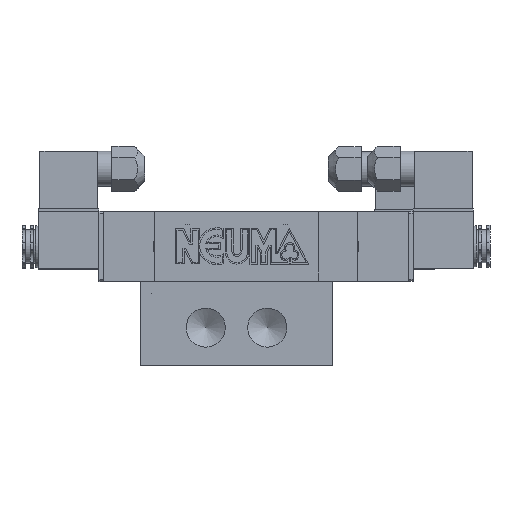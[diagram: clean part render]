
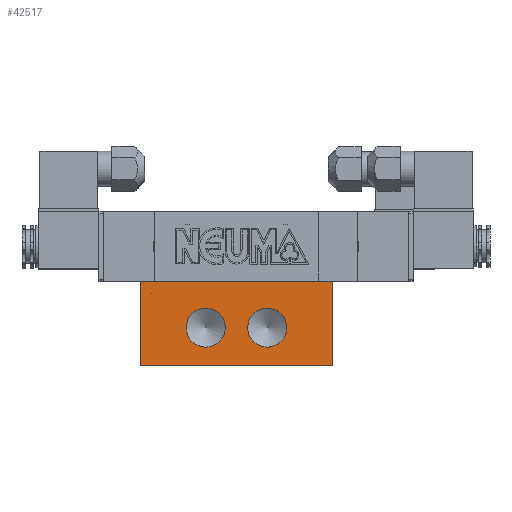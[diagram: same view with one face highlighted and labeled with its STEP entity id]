
A CAD part, top view. The second image highlights one B-rep face of the part: STEP entity #42517.
In plain terms, the highlighted planar face has unit normal (0, 0, 1).
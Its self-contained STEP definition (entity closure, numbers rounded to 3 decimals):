
#371 = AXIS2_PLACEMENT_3D ( 'NONE', #6514, #32317, #10214 ) ;
#2610 = EDGE_LOOP ( 'NONE', ( #2732 ) ) ;
#2719 = CARTESIAN_POINT ( 'NONE',  ( -47., 20.5, 30.5 ) ) ;
#2732 = ORIENTED_EDGE ( 'NONE', *, *, #7483, .F. ) ;
#3682 = DIRECTION ( 'NONE',  ( 1., 0., 0. ) ) ;
#4845 = EDGE_CURVE ( 'NONE', #41000, #19257, #8680, .T. ) ;
#6514 = CARTESIAN_POINT ( 'NONE',  ( 15., -2., 30.5 ) ) ;
#7326 = PLANE ( 'NONE',  #11623 ) ;
#7483 = EDGE_CURVE ( 'NONE', #25247, #25247, #40341, .T. ) ;
#8001 = EDGE_CURVE ( 'NONE', #16989, #41000, #38249, .T. ) ;
#8330 = ORIENTED_EDGE ( 'NONE', *, *, #4845, .F. ) ;
#8680 = LINE ( 'NONE', #16607, #8895 ) ;
#8895 = VECTOR ( 'NONE', #16354, 1000. ) ;
#9144 = DIRECTION ( 'NONE',  ( 0., 0., 1. ) ) ;
#9494 = FACE_BOUND ( 'NONE', #45340, .T. ) ;
#10214 = DIRECTION ( 'NONE',  ( 1., 0., 0. ) ) ;
#10648 = FACE_OUTER_BOUND ( 'NONE', #41499, .T. ) ;
#11029 = DIRECTION ( 'NONE',  ( 0., 0., -1. ) ) ;
#11623 = AXIS2_PLACEMENT_3D ( 'NONE', #47809, #11029, #36891 ) ;
#11727 = EDGE_CURVE ( 'NONE', #31521, #31521, #17058, .T. ) ;
#13450 = CARTESIAN_POINT ( 'NONE',  ( 47., -20.5, 30.5 ) ) ;
#14716 = EDGE_CURVE ( 'NONE', #38160, #19257, #38720, .T. ) ;
#15077 = AXIS2_PLACEMENT_3D ( 'NONE', #31220, #9144, #34987 ) ;
#16354 = DIRECTION ( 'NONE',  ( 0., -1., 0. ) ) ;
#16607 = CARTESIAN_POINT ( 'NONE',  ( 47., 20.5, 30.5 ) ) ;
#16989 = VERTEX_POINT ( 'NONE', #2719 ) ;
#17058 = CIRCLE ( 'NONE', #15077, 9.5 ) ;
#19009 = VECTOR ( 'NONE', #3682, 1000. ) ;
#19257 = VERTEX_POINT ( 'NONE', #13450 ) ;
#19306 = CARTESIAN_POINT ( 'NONE',  ( 24.5, -2., 30.5 ) ) ;
#20523 = DIRECTION ( 'NONE',  ( 1., 0., 0. ) ) ;
#22653 = ORIENTED_EDGE ( 'NONE', *, *, #11727, .F. ) ;
#23197 = ORIENTED_EDGE ( 'NONE', *, *, #14716, .T. ) ;
#23947 = ORIENTED_EDGE ( 'NONE', *, *, #30181, .T. ) ;
#25247 = VERTEX_POINT ( 'NONE', #19306 ) ;
#30181 = EDGE_CURVE ( 'NONE', #16989, #38160, #44578, .T. ) ;
#31220 = CARTESIAN_POINT ( 'NONE',  ( -15., -2., 30.5 ) ) ;
#31521 = VERTEX_POINT ( 'NONE', #45273 ) ;
#32317 = DIRECTION ( 'NONE',  ( 0., 0., 1. ) ) ;
#34795 = VECTOR ( 'NONE', #39738, 1000. ) ;
#34987 = DIRECTION ( 'NONE',  ( 1., 0., 0. ) ) ;
#36006 = CARTESIAN_POINT ( 'NONE',  ( -47., 20.5, 30.5 ) ) ;
#36160 = ORIENTED_EDGE ( 'NONE', *, *, #8001, .F. ) ;
#36891 = DIRECTION ( 'NONE',  ( -1., 0., 0. ) ) ;
#37726 = VECTOR ( 'NONE', #20523, 1000. ) ;
#38160 = VERTEX_POINT ( 'NONE', #40332 ) ;
#38249 = LINE ( 'NONE', #42663, #37726 ) ;
#38720 = LINE ( 'NONE', #40579, #19009 ) ;
#39000 = FACE_BOUND ( 'NONE', #2610, .T. ) ;
#39738 = DIRECTION ( 'NONE',  ( 0., -1., 0. ) ) ;
#40332 = CARTESIAN_POINT ( 'NONE',  ( -47., -20.5, 30.5 ) ) ;
#40341 = CIRCLE ( 'NONE', #371, 9.5 ) ;
#40579 = CARTESIAN_POINT ( 'NONE',  ( -47., -20.5, 30.5 ) ) ;
#41000 = VERTEX_POINT ( 'NONE', #47278 ) ;
#41499 = EDGE_LOOP ( 'NONE', ( #23197, #8330, #36160, #23947 ) ) ;
#42517 = ADVANCED_FACE ( 'NONE', ( #9494, #39000, #10648 ), #7326, .F. ) ;
#42663 = CARTESIAN_POINT ( 'NONE',  ( -47., 20.5, 30.5 ) ) ;
#44578 = LINE ( 'NONE', #36006, #34795 ) ;
#45273 = CARTESIAN_POINT ( 'NONE',  ( -5.5, -2., 30.5 ) ) ;
#45340 = EDGE_LOOP ( 'NONE', ( #22653 ) ) ;
#47278 = CARTESIAN_POINT ( 'NONE',  ( 47., 20.5, 30.5 ) ) ;
#47809 = CARTESIAN_POINT ( 'NONE',  ( -47., 20.5, 30.5 ) ) ;
